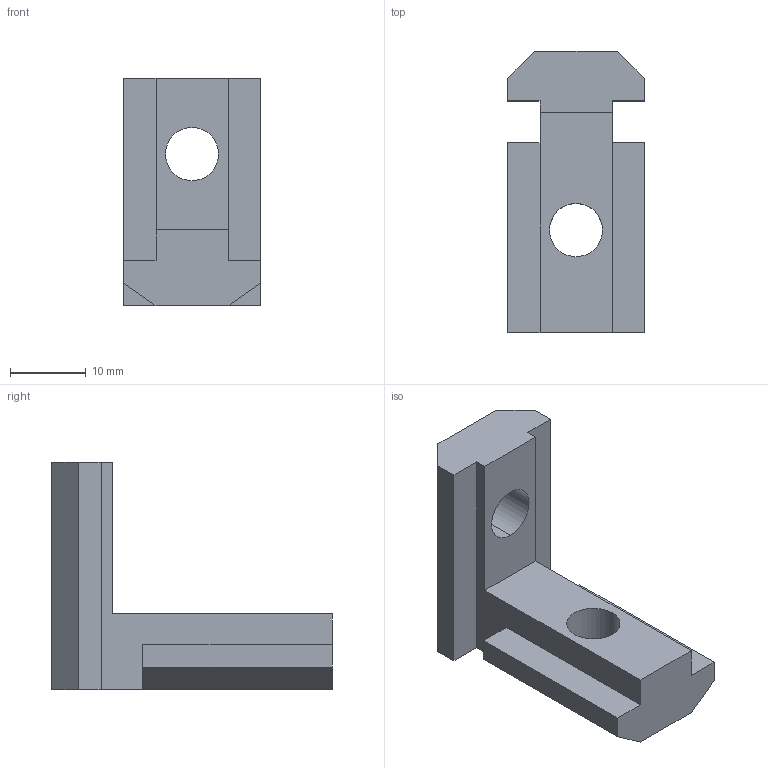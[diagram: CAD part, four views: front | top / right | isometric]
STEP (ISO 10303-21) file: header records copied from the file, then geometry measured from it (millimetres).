
FILE_DESCRIPTION (( 'STEP AP214' ), '1' );
FILE_NAME ('2033.STEP', '2017-08-09T05:51:36', ( '' ), ( '' ), 'SwSTEP 2.0', 'SolidWorks 2014', '' );
FILE_SCHEMA (( 'AUTOMOTIVE_DESIGN' ));
Length unit declared in the file: millimetre
Products named in the file (2): 2033
Bounding box: 18 x 37.02 x 30 mm (x, y, z)
Volume: 6591.8 mm3; surface area: 3447.9 mm2
Topology: 1 solids, 1 shells, 26 faces, 70 edges, 46 vertices
Faces by surface type: plane 22, cylinder 4
Entity records: 907 total; most frequent: CARTESIAN_POINT 144, ORIENTED_EDGE 140, DIRECTION 134, EDGE_CURVE 70, LINE 62, VECTOR 62, VERTEX_POINT 46, AXIS2_PLACEMENT_3D 36
